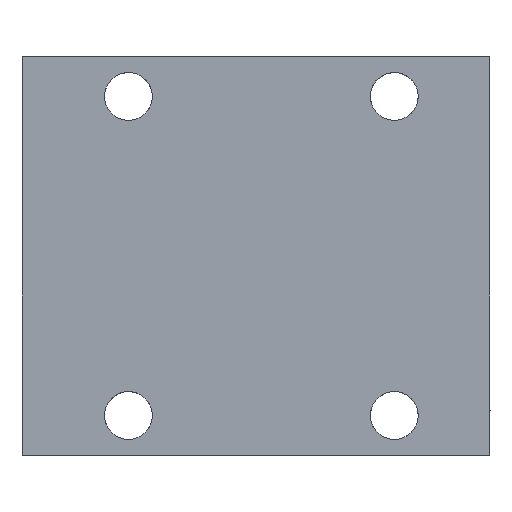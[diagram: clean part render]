
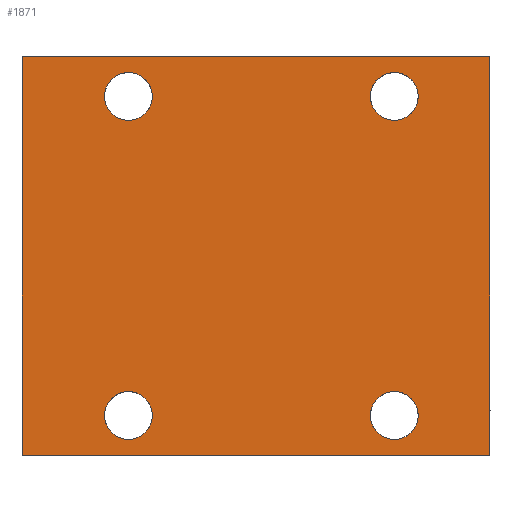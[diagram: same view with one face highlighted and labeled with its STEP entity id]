
A CAD part, top view. The second image highlights one B-rep face of the part: STEP entity #1871.
In plain terms, the highlighted planar face has unit normal (0, 0, 1).
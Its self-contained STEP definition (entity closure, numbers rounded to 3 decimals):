
#771=EDGE_CURVE('',#1679,#989,#2181,.T.);
#799=VERTEX_POINT('',#2211);
#989=VERTEX_POINT('',#2415);
#1043=EDGE_CURVE('',#1537,#1359,#2478,.T.);
#1177=EDGE_CURVE('',#1957,#1679,#2623,.T.);
#1227=EDGE_CURVE('',#1445,#799,#2678,.T.);
#1257=VERTEX_POINT('',#2711);
#1303=VERTEX_POINT('',#2759);
#1333=EDGE_CURVE('',#2009,#1957,#2789,.T.);
#1351=EDGE_CURVE('',#1303,#2041,#2809,.T.);
#1353=VERTEX_POINT('',#2811);
#1359=VERTEX_POINT('',#2817);
#1445=VERTEX_POINT('',#2910);
#1449=EDGE_CURVE('',#1359,#1537,#2915,.T.);
#1491=EDGE_CURVE('',#989,#2009,#2963,.T.);
#1521=EDGE_CURVE('',#799,#1445,#2994,.T.);
#1537=VERTEX_POINT('',#3012);
#1627=EDGE_CURVE('',#2041,#1303,#3107,.T.);
#1647=EDGE_CURVE('',#1257,#1353,#3128,.T.);
#1679=VERTEX_POINT('',#3161);
#1865=EDGE_CURVE('',#1353,#1257,#3368,.T.);
#1871=ADVANCED_FACE('',(#3375,#3376,#3377,#3378,#3379),#3380,.T.);
#1957=VERTEX_POINT('',#3474);
#2009=VERTEX_POINT('',#3531);
#2041=VERTEX_POINT('',#3563);
#2181=LINE('',#3749,#3750);
#2211=CARTESIAN_POINT('',(15.5,30.0,0.0));
#2415=CARTESIAN_POINT('',(88.0,-37.5,0.0));
#2478=CIRCLE('',#4301,4.5);
#2623=LINE('',#4587,#4588);
#2678=CIRCLE('',#4661,4.5);
#2711=CARTESIAN_POINT('',(15.5,-30.0,0.0));
#2759=CARTESIAN_POINT('',(74.5,-30.0,0.));
#2789=LINE('',#4905,#4906);
#2809=CIRCLE('',#4938,4.5);
#2811=CARTESIAN_POINT('',(24.5,-30.0,0.));
#2817=CARTESIAN_POINT('',(65.5,30.0,0.0));
#2910=CARTESIAN_POINT('',(24.5,30.0,0.));
#2915=CIRCLE('',#5159,4.5);
#2963=LINE('',#5256,#5257);
#2994=CIRCLE('',#5324,4.5);
#3012=CARTESIAN_POINT('',(74.5,30.0,0.));
#3107=CIRCLE('',#5530,4.5);
#3128=CIRCLE('',#5575,4.5);
#3161=CARTESIAN_POINT('',(0.0,-37.5,0.));
#3368=CIRCLE('',#6057,4.5);
#3375=FACE_OUTER_BOUND('',#6074,.T.);
#3376=FACE_BOUND('',#6075,.T.);
#3377=FACE_BOUND('',#6076,.T.);
#3378=FACE_BOUND('',#6077,.T.);
#3379=FACE_BOUND('',#6078,.T.);
#3380=PLANE('',#6079);
#3474=CARTESIAN_POINT('',(0.0,37.5,0.));
#3531=CARTESIAN_POINT('',(88.0,37.5,0.0));
#3563=CARTESIAN_POINT('',(65.5,-30.0,0.0));
#3749=CARTESIAN_POINT('',(0.0,-37.5,0.));
#3750=VECTOR('',#6616,88.0);
#4301=AXIS2_PLACEMENT_3D('',#6944,#6945,#6946);
#4587=CARTESIAN_POINT('',(0.0,37.5,0.));
#4588=VECTOR('',#7069,75.0);
#4661=AXIS2_PLACEMENT_3D('',#7126,#7127,#7128);
#4905=CARTESIAN_POINT('',(88.0,37.5,0.));
#4906=VECTOR('',#7242,88.0);
#4938=AXIS2_PLACEMENT_3D('',#7263,#7264,#7265);
#5159=AXIS2_PLACEMENT_3D('',#7388,#7389,#7390);
#5256=CARTESIAN_POINT('',(88.0,-37.5,0.0));
#5257=VECTOR('',#7493,75.0);
#5324=AXIS2_PLACEMENT_3D('',#7517,#7518,#7519);
#5530=AXIS2_PLACEMENT_3D('',#7636,#7637,#7638);
#5575=AXIS2_PLACEMENT_3D('',#7651,#7652,#7653);
#6057=AXIS2_PLACEMENT_3D('',#7942,#7943,#7944);
#6074=EDGE_LOOP('',(#7954,#7955,#7956,#7957));
#6075=EDGE_LOOP('',(#7958,#7959));
#6076=EDGE_LOOP('',(#7960,#7961));
#6077=EDGE_LOOP('',(#7962,#7963));
#6078=EDGE_LOOP('',(#7964,#7965));
#6079=AXIS2_PLACEMENT_3D('',#7966,#7967,#7968);
#6616=DIRECTION('',(1.0,0.0,0.0));
#6944=CARTESIAN_POINT('',(70.0,30.0,0.0));
#6945=DIRECTION('',(0.0,0.0,-1.0));
#6946=DIRECTION('',(1.0,0.0,0.0));
#7069=DIRECTION('',(0.0,-1.0,0.0));
#7126=CARTESIAN_POINT('',(20.0,30.0,0.0));
#7127=DIRECTION('',(0.0,0.0,-1.0));
#7128=DIRECTION('',(1.0,0.0,0.0));
#7242=DIRECTION('',(-1.0,0.0,0.0));
#7263=CARTESIAN_POINT('',(70.0,-30.0,0.0));
#7264=DIRECTION('',(0.0,0.0,-1.0));
#7265=DIRECTION('',(1.0,0.0,0.0));
#7388=CARTESIAN_POINT('',(70.0,30.0,0.0));
#7389=DIRECTION('',(0.0,0.0,-1.0));
#7390=DIRECTION('',(1.0,0.0,0.0));
#7493=DIRECTION('',(0.0,1.0,0.0));
#7517=CARTESIAN_POINT('',(20.0,30.0,0.0));
#7518=DIRECTION('',(0.0,0.0,-1.0));
#7519=DIRECTION('',(1.0,0.0,0.0));
#7636=CARTESIAN_POINT('',(70.0,-30.0,0.0));
#7637=DIRECTION('',(0.0,0.0,-1.0));
#7638=DIRECTION('',(1.0,0.0,0.0));
#7651=CARTESIAN_POINT('',(20.0,-30.0,0.0));
#7652=DIRECTION('',(0.0,0.0,-1.0));
#7653=DIRECTION('',(1.0,0.0,0.0));
#7942=CARTESIAN_POINT('',(20.0,-30.0,0.0));
#7943=DIRECTION('',(0.0,0.0,-1.0));
#7944=DIRECTION('',(1.0,0.0,0.0));
#7954=ORIENTED_EDGE('',*,*,#1333,.T.);
#7955=ORIENTED_EDGE('',*,*,#1177,.T.);
#7956=ORIENTED_EDGE('',*,*,#771,.T.);
#7957=ORIENTED_EDGE('',*,*,#1491,.T.);
#7958=ORIENTED_EDGE('',*,*,#1865,.T.);
#7959=ORIENTED_EDGE('',*,*,#1647,.T.);
#7960=ORIENTED_EDGE('',*,*,#1227,.T.);
#7961=ORIENTED_EDGE('',*,*,#1521,.T.);
#7962=ORIENTED_EDGE('',*,*,#1043,.T.);
#7963=ORIENTED_EDGE('',*,*,#1449,.T.);
#7964=ORIENTED_EDGE('',*,*,#1351,.T.);
#7965=ORIENTED_EDGE('',*,*,#1627,.T.);
#7966=CARTESIAN_POINT('',(88.0,0.0,0.0));
#7967=DIRECTION('',(0.0,0.0,1.0));
#7968=DIRECTION('',(0.0,-1.0,0.0));
